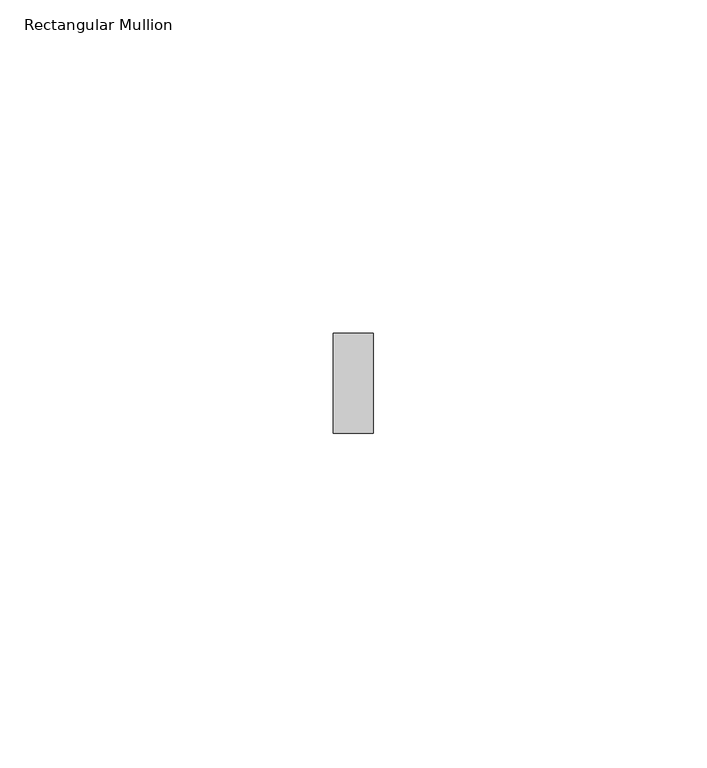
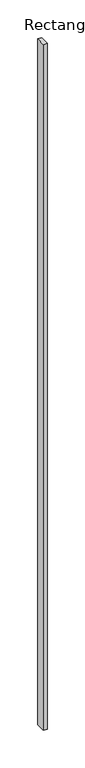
"""IFC4 building model written with IfcOpenShell, lengths in millimetres: member geometry, Rectangular Mullion : ARQ_HERR_15X6mm."""

from ifc_helpers import new_model, si_unit, frame, origin, place, context, project, spatial, polyline, outline, extrude, source, transform, mapped, element, save


def rectangular_mullion_2d035fdd(model_context):
    return source(origin(), model_context, "Body", "SweptSolid", [
        extrude(outline(polyline([(3.0, 7.5), (3.0, -7.5), (-3.0, -7.5), (-3.0, 7.5), (3.0, 7.5)])), frame((0.0, 0.0, -1112.2700874), z_axis=(0.0, 0.0, 1.0), x_axis=(1.0, 0.0, 0.0)), (0.0, 0.0, 1.0), 1112.2700874),
    ])


if __name__ == "__main__":
    model = new_model("IFC4")
    model_context = context("Model", 3, world=origin())
    ifc_project = project(units=[si_unit("LENGTHUNIT", "METRE", prefix="MILLI")], contexts=[model_context])
    site = spatial("IfcSite", under=ifc_project)
    building = spatial("IfcBuilding", under=site)
    placement = place(None, origin())
    rectangular_mullion_shape = rectangular_mullion_2d035fdd(model_context)
    element("IfcMember", 1, ObjectType="Rectangular Mullion : ARQ_HERR_15X6mm", at=placement, inside=building, context=model_context, shape_type="MappedRepresentation", body=[
        mapped(rectangular_mullion_shape, transform((0.0, 0.0, 0.0), x_axis=(1.0, 0.0, 0.0), y_axis=(0.0, 1.0, 0.0), z_axis=(0.0, 0.0, 1.0))),
    ])
    save(model, "model.ifc")
